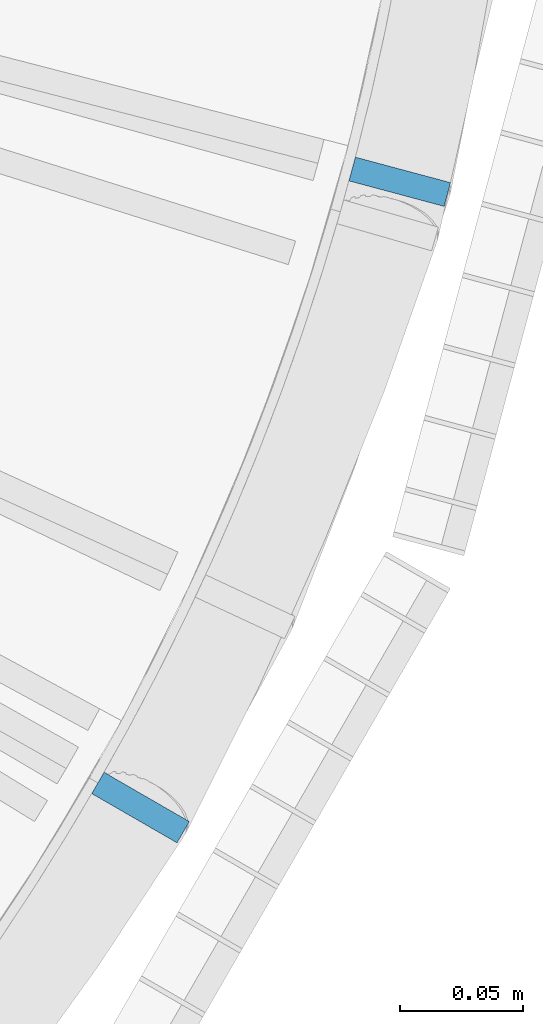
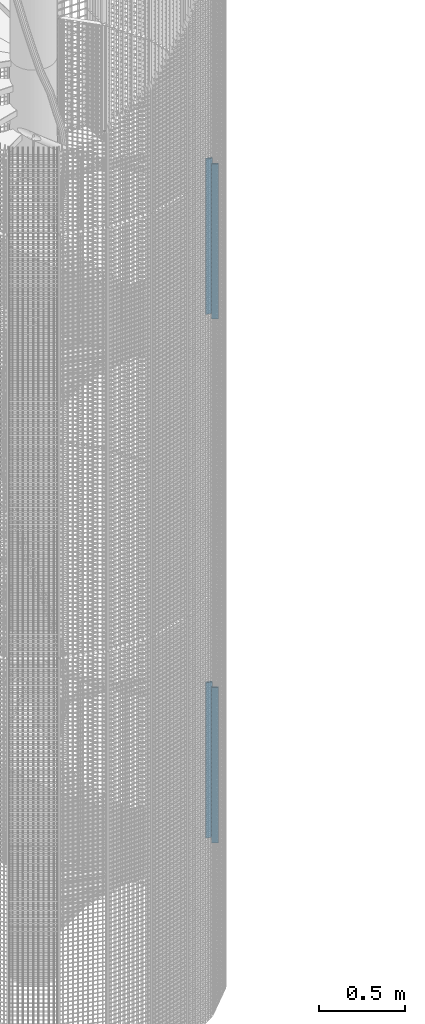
# One storey, part 67 of 1183: 4 columns, 4 elements without a shape of their own.
"""IFC2X3 building model written with IfcOpenShell, lengths in millimetres."""

import ifcopenshell
import ifcopenshell.guid

model = None  # the IFC model being written
_history = None  # IfcOwnerHistory: only IFC2X3 demands one
_inside = {}  # id of a spatial element -> (the spatial element, [elements in it])
_under = {}  # id of a project, library or spatial element -> (it, [spatial elements below it])
_declared = {}  # id of a project -> (the project, [libraries it declares])
_typed = {}  # id of a type object -> (the type object, [elements of that type])
_made_of = {}  # id of a material, layer set ... -> (it, [elements and type objects made of it])


def new_model(schema):
    """Start an empty IFC model of exactly this schema.

    Asked for "IFC4X3", IfcOpenShell would pick the latest addendum, in which some entities
    have other attributes; the version numbers below select the first issue.
    IFC2X3 requires an IfcOwnerHistory on every rooted entity: one is made here for all.
    """
    global model, _history
    if schema == "IFC4X3":
        model = ifcopenshell.file(schema_version=(4, 3, 0, 0))
    else:
        model = ifcopenshell.file(schema=schema)
    _inside.clear()
    _under.clear()
    _declared.clear()
    _typed.clear()
    _made_of.clear()
    _history = None
    if model.schema == "IFC2X3":
        org = make("IfcOrganization", Name="unknown")
        user = make(
            "IfcPersonAndOrganization",
            ThePerson=make("IfcPerson", FamilyName="unknown"),
            TheOrganization=org,
        )
        app = make(
            "IfcApplication",
            ApplicationDeveloper=org,
            Version="unknown",
            ApplicationFullName="unknown",
            ApplicationIdentifier="unknown",
        )
        _history = make(
            "IfcOwnerHistory",
            OwningUser=user,
            OwningApplication=app,
            ChangeAction="ADDED",
            CreationDate=0,
        )
    return model


def make(cls, **values):
    """One entity of the class cls with the attributes given. An attribute that is None is left unset."""
    return model.create_entity(
        cls, **{name: value for name, value in values.items() if value is not None}
    )


def rooted(cls, **values):
    """An entity with a GlobalId (a new one), such as an element, a storey or a relation."""
    return make(cls, GlobalId=ifcopenshell.guid.new(), OwnerHistory=_history, **values)


def si_unit(unit_type, name, prefix=None):
    """IfcSIUnit, for example si_unit("LENGTHUNIT", "METRE", prefix="MILLI")."""
    return make("IfcSIUnit", UnitType=unit_type, Prefix=prefix, Name=name)


def assignment(units):
    """IfcUnitAssignment: the units of a project."""
    return None if units is None else make("IfcUnitAssignment", Units=units)


def point(xyz):
    """IfcCartesianPoint."""
    return None if xyz is None else make("IfcCartesianPoint", Coordinates=xyz)


def direction(xyz):
    """IfcDirection."""
    return None if xyz is None else make("IfcDirection", DirectionRatios=xyz)


def frame(location, z_axis=None, x_axis=None):
    """IfcAxis2Placement3D, a coordinate frame: its origin and axes. An axis left out is left unset."""
    return make(
        "IfcAxis2Placement3D",
        Location=point(location),
        Axis=direction(z_axis),
        RefDirection=direction(x_axis),
    )


def frame_2d(location, x_axis=None):
    """IfcAxis2Placement2D, a coordinate frame in the plane: its origin and x axis."""
    return make(
        "IfcAxis2Placement2D", Location=point(location), RefDirection=direction(x_axis)
    )


def origin_with_axes():
    """The frame at (0, 0, 0) with the z axis (0, 0, 1) and the x axis (1, 0, 0) written out."""
    return frame((0.0, 0.0, 0.0), z_axis=(0.0, 0.0, 1.0), x_axis=(1.0, 0.0, 0.0))


def origin_2d_with_axis():
    """The frame at (0, 0) in the plane with the x axis (1, 0) written out."""
    return frame_2d((0.0, 0.0), x_axis=(1.0, 0.0))


def place(relative_to, where):
    """IfcLocalPlacement: puts the frame where relative to a parent placement (None: the world)."""
    return make(
        "IfcLocalPlacement", PlacementRelTo=relative_to, RelativePlacement=where
    )


def context(
    kind, dimensions, precision=None, world=None, true_north=None, identifier=None
):
    """IfcGeometricRepresentationContext, for example the 3D "Model" context."""
    return make(
        "IfcGeometricRepresentationContext",
        ContextIdentifier=identifier,
        ContextType=kind,
        CoordinateSpaceDimension=dimensions,
        Precision=precision,
        WorldCoordinateSystem=world,
        TrueNorth=true_north,
    )


def subcontext(parent, identifier, kind, view, scale=None):
    """IfcGeometricRepresentationSubContext, for example "Body" below "Model"."""
    return make(
        "IfcGeometricRepresentationSubContext",
        ContextIdentifier=identifier,
        ContextType=kind,
        ParentContext=parent,
        TargetScale=scale,
        TargetView=view,
    )


def project(units=None, contexts=None):
    """IfcProject with its units and contexts."""
    return rooted(
        "IfcProject",
        Name="project",
        RepresentationContexts=contexts,
        UnitsInContext=assignment(units),
    )


def spatial(cls, under=None, at=None, **own):
    """A site, building, storey or space (cls), placed at a placement, below another one or the project."""
    s = rooted(cls, ObjectPlacement=at, **own)
    if under is not None:
        _under.setdefault(under.id(), (under, []))[1].append(s)
    return s


def profile(cls, at=None, kind="AREA", **sizes):
    """A parametric profile (cls). Its sizes go by their IFC names, for example OverallWidth=200.0."""
    return make(cls, ProfileType=kind, Position=at, **sizes)


def rectangle(**sizes):
    """IfcRectangleProfileDef."""
    return profile("IfcRectangleProfileDef", **sizes)


def extrude(swept, where, along, depth):
    """IfcExtrudedAreaSolid: the profile swept, set in the frame where, extruded along a direction by depth."""
    return make(
        "IfcExtrudedAreaSolid",
        SweptArea=swept,
        Position=where,
        ExtrudedDirection=direction(along),
        Depth=depth,
    )


def shape(context_of_items, identifier, shape_type, items):
    """IfcShapeRepresentation: the items that make up one representation, for example the "Body"."""
    return make(
        "IfcShapeRepresentation",
        ContextOfItems=context_of_items,
        RepresentationIdentifier=identifier,
        RepresentationType=shape_type,
        Items=items,
    )


def material(Name=None, Category=None):
    """IfcMaterial."""
    return make("IfcMaterial", Name=Name, Category=Category)


def made_of(thing, what):
    """Note that an element or type object is made of a material, layer set ...; save() writes the relation."""
    if what is not None:
        _made_of.setdefault(what.id(), (what, []))[1].append(thing)
    return thing


def type_object(cls, material=None, **own):
    """A type object (cls), such as IfcWallType, which elements share."""
    return made_of(rooted(cls, **own), material)


def element(
    cls,
    number,
    at=None,
    inside=None,
    cuts=None,
    type_object=None,
    material=None,
    context=None,
    identifier="Body",
    shape_type=None,
    held_by="IfcProductDefinitionShape",
    body=None,
    shapes=None,
    **own,
):
    """One element of the class cls, such as IfcWall. Its Tag is "e" and its number.

    at: its placement. inside: the storey or other place that contains it. cuts: it is an
    opening in that element (IfcRelVoidsElement). A single representation is given by context,
    identifier, shape_type and body (its items); several are given by shapes. held_by: the class
    of the entity that holds the representations. save() writes the other relations.
    """
    e = rooted(cls, Tag="e%d" % number, ObjectPlacement=at, **own)
    if body is not None:
        shapes = [shape(context, identifier, shape_type, body)]
    if shapes is not None:
        e.Representation = make(held_by, Representations=shapes)
    if inside is not None:
        _inside.setdefault(inside.id(), (inside, []))[1].append(e)
    if cuts is not None:
        rooted(
            "IfcRelVoidsElement", RelatingBuildingElement=cuts, RelatedOpeningElement=e
        )
    if type_object is not None:
        _typed.setdefault(type_object.id(), (type_object, []))[1].append(e)
    return made_of(e, material)


def aggregate(whole, parts):
    """IfcRelAggregates: a whole, such as a stair, and the parts it consists of."""
    return rooted("IfcRelAggregates", RelatingObject=whole, RelatedObjects=parts)


def save(model, path):
    """Write the relations noted so far, then the file.

    IfcRelAggregates (storeys below a building ...), IfcRelContainedInSpatialStructure (elements
    in a storey), IfcRelDefinesByType, IfcRelAssociatesMaterial and IfcRelDeclares: one each for
    every whole, place, type object, material and project.
    """
    for whole, parts in _under.values():
        aggregate(whole, parts)
    for where, things in _inside.values():
        rooted(
            "IfcRelContainedInSpatialStructure",
            RelatedElements=things,
            RelatingStructure=where,
        )
    for kind, things in _typed.values():
        rooted("IfcRelDefinesByType", RelatedObjects=things, RelatingType=kind)
    for what, things in _made_of.values():
        rooted("IfcRelAssociatesMaterial", RelatedObjects=things, RelatingMaterial=what)
    for by, libraries in _declared.values():
        rooted("IfcRelDeclares", RelatingContext=by, RelatedDefinitions=libraries)
    model.write(path)


model = new_model("IFC2X3")

# Units and contexts
model_context = context("Model", 3, precision=1e-05, world=origin_with_axes())
body_context = subcontext(model_context, "Body", "Model", "MODEL_VIEW")
ifc_project = project(units=[si_unit("LENGTHUNIT", "METRE", prefix="MILLI"), si_unit("AREAUNIT", "SQUARE_METRE"), si_unit("VOLUMEUNIT", "CUBIC_METRE"), si_unit("MASSUNIT", "GRAM", prefix="KILO"), si_unit("TIMEUNIT", "SECOND"), si_unit("PLANEANGLEUNIT", "RADIAN"), si_unit("SOLIDANGLEUNIT", "STERADIAN"), si_unit("THERMODYNAMICTEMPERATUREUNIT", "DEGREE_CELSIUS"), si_unit("LUMINOUSINTENSITYUNIT", "LUMEN")], contexts=[model_context])

# Site, building, storey
site_placement = place(None, origin_with_axes())
site = spatial("IfcSite", under=ifc_project, at=site_placement, Name="Undefined", CompositionType="ELEMENT")
building_placement = place(site_placement, origin_with_axes())
building = spatial("IfcBuilding", under=site, at=building_placement, Name="Undefined", CompositionType="ELEMENT")
storey_placement = place(building_placement, origin_with_axes())
storey = spatial("IfcBuildingStorey", under=building, at=storey_placement, Name="Undefined", CompositionType="ELEMENT", Elevation=0.0)

# Assembly, column
assembly_1_placement = place(storey_placement, origin_with_axes())
assembly_1 = element("IfcElementAssembly", 1, at=assembly_1_placement, inside=storey, Name="MONTANT", AssemblyPlace="NOTDEFINED", PredefinedType="NOTDEFINED")
ifc_material = material(Name="STEEL/S235JR")
column_type = type_object("IfcColumnType", Name="PL10*40", PredefinedType="NOTDEFINED")
column_1_placement = place(assembly_1_placement, frame((22512.7907755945, -527.000000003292, 4635.6), z_axis=(0.0, 0.0, 1.0), x_axis=(-0.866025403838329, 0.499999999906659, 0.0)))
column_1 = element("IfcColumn", 2, at=column_1_placement, type_object=column_type, material=ifc_material, Name="MONTANT", context=body_context, shape_type="SweptSolid", body=[
    extrude(rectangle(XDim=10.0, YDim=40.0, at=origin_2d_with_axis()), frame((0.0, 0.0, 1100.0), z_axis=(0.0, 0.0, -1.0), x_axis=(0.0, 1.0, 0.0)), (0.0, 0.0, 1.0), 1100.0),
])
aggregate(assembly_1, [column_1])

assembly_2_placement = place(storey_placement, origin_with_axes())
assembly_2 = element("IfcElementAssembly", 3, at=assembly_2_placement, inside=storey, Name="MONTANT", AssemblyPlace="NOTDEFINED", PredefinedType="NOTDEFINED")
column_2_placement = place(assembly_2_placement, frame((22618.0858209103, -272.795273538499, 772.6), z_axis=(0.0, 0.0, 1.0), x_axis=(-0.965925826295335, 0.258819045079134, 0.0)))
column_2 = element("IfcColumn", 4, at=column_2_placement, type_object=column_type, material=ifc_material, Name="MONTANT", context=body_context, shape_type="SweptSolid", body=[
    extrude(rectangle(XDim=10.0, YDim=40.0, at=origin_2d_with_axis()), frame((0.0, 0.0, 1100.0), z_axis=(0.0, 0.0, -1.0), x_axis=(0.0, 1.0, 0.0)), (0.0, 0.0, 1.0), 1100.0),
])
aggregate(assembly_2, [column_2])

assembly_3_placement = place(storey_placement, origin_with_axes())
assembly_3 = element("IfcElementAssembly", 5, at=assembly_3_placement, inside=storey, Name="MONTANT", AssemblyPlace="NOTDEFINED", PredefinedType="NOTDEFINED")
column_3_placement = place(assembly_3_placement, frame((22618.0858209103, -272.795273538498, 4481.08), z_axis=(0.0, 0.0, 1.0), x_axis=(-0.965925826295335, 0.258819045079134, 0.0)))
column_3 = element("IfcColumn", 6, at=column_3_placement, type_object=column_type, material=ifc_material, Name="MONTANT", context=body_context, shape_type="SweptSolid", body=[
    extrude(rectangle(XDim=10.0, YDim=40.0, at=origin_2d_with_axis()), frame((0.0, 0.0, 1100.0), z_axis=(0.0, 0.0, -1.0), x_axis=(0.0, 1.0, 0.0)), (0.0, 0.0, 1.0), 1100.0),
])
aggregate(assembly_3, [column_3])

assembly_4_placement = place(storey_placement, origin_with_axes())
assembly_4 = element("IfcElementAssembly", 7, at=assembly_4_placement, inside=storey, Name="MONTANT", AssemblyPlace="NOTDEFINED", PredefinedType="NOTDEFINED")
column_4_placement = place(assembly_4_placement, frame((22512.7907755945, -527.000000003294, 927.12), z_axis=(0.0, 0.0, 1.0), x_axis=(-0.866025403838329, 0.499999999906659, 0.0)))
column_4 = element("IfcColumn", 8, at=column_4_placement, type_object=column_type, material=ifc_material, Name="MONTANT", context=body_context, shape_type="SweptSolid", body=[
    extrude(rectangle(XDim=10.0, YDim=40.0, at=origin_2d_with_axis()), frame((0.0, 0.0, 1100.0), z_axis=(0.0, 0.0, -1.0), x_axis=(0.0, 1.0, 0.0)), (0.0, 0.0, 1.0), 1100.0),
])
aggregate(assembly_4, [column_4])

save(model, "model.ifc")
